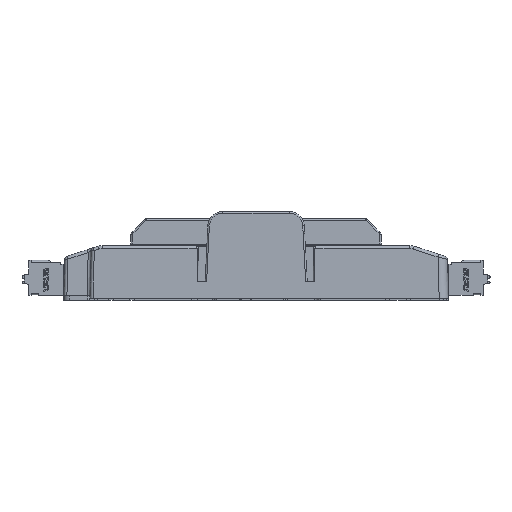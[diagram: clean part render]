
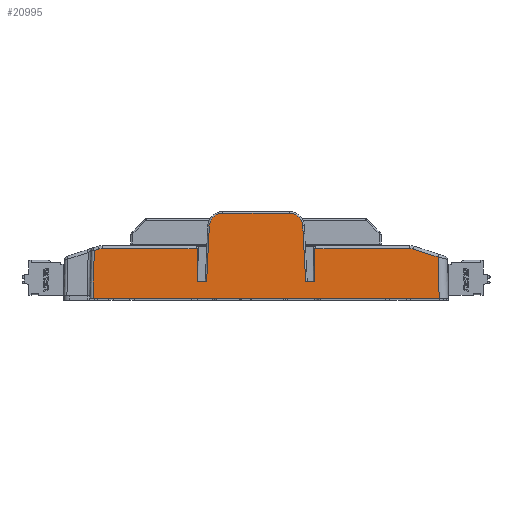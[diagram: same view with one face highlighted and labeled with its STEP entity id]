
A CAD part, front view. The second image highlights one B-rep face of the part: STEP entity #20995.
In plain terms, the highlighted planar face has unit normal (0, -1, 0.026).
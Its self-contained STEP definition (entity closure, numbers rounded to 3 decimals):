
#19801=ELLIPSE('',#84935,4.502,4.5);
#19802=ELLIPSE('',#84939,4.502,4.5);
#19807=ELLIPSE('',#84962,0.5,0.5);
#19811=ELLIPSE('',#84974,0.5,0.5);
#19821=ELLIPSE('',#85017,4.001,4.);
#19826=ELLIPSE('',#85035,4.001,4.);
#20995=ADVANCED_FACE('',(#26771),#24025,.F.);
#24025=PLANE('',#85066);
#26771=FACE_OUTER_BOUND('',#30038,.T.);
#30038=EDGE_LOOP('',(#37102,#37103,#37104,#37105,#37106,#37107,#37108,#37109,
#37110,#37111,#37112,#37113,#37114,#37115,#37116,#37117,#37118,#37119,#37120,
#37121));
#37102=ORIENTED_EDGE('',*,*,#59328,.F.);
#37103=ORIENTED_EDGE('',*,*,#58485,.F.);
#37104=ORIENTED_EDGE('',*,*,#59329,.T.);
#37105=ORIENTED_EDGE('',*,*,#59297,.T.);
#37106=ORIENTED_EDGE('',*,*,#59284,.T.);
#37107=ORIENTED_EDGE('',*,*,#59263,.T.);
#37108=ORIENTED_EDGE('',*,*,#59188,.T.);
#37109=ORIENTED_EDGE('',*,*,#59173,.T.);
#37110=ORIENTED_EDGE('',*,*,#59171,.F.);
#37111=ORIENTED_EDGE('',*,*,#59166,.T.);
#37112=ORIENTED_EDGE('',*,*,#59164,.T.);
#37113=ORIENTED_EDGE('',*,*,#59162,.T.);
#37114=ORIENTED_EDGE('',*,*,#59160,.T.);
#37115=ORIENTED_EDGE('',*,*,#59158,.T.);
#37116=ORIENTED_EDGE('',*,*,#59156,.F.);
#37117=ORIENTED_EDGE('',*,*,#59149,.F.);
#37118=ORIENTED_EDGE('',*,*,#59210,.T.);
#37119=ORIENTED_EDGE('',*,*,#59280,.T.);
#37120=ORIENTED_EDGE('',*,*,#59260,.T.);
#37121=ORIENTED_EDGE('',*,*,#59248,.T.);
#52050=VERTEX_POINT('',#108516);
#52051=VERTEX_POINT('',#108518);
#52516=VERTEX_POINT('',#110192);
#52517=VERTEX_POINT('',#110193);
#52521=VERTEX_POINT('',#110205);
#52522=VERTEX_POINT('',#110209);
#52523=VERTEX_POINT('',#110213);
#52524=VERTEX_POINT('',#110234);
#52525=VERTEX_POINT('',#110238);
#52526=VERTEX_POINT('',#110259);
#52529=VERTEX_POINT('',#110268);
#52530=VERTEX_POINT('',#110272);
#52535=VERTEX_POINT('',#110285);
#52539=VERTEX_POINT('',#110297);
#52554=VERTEX_POINT('',#110383);
#52573=VERTEX_POINT('',#110550);
#52578=VERTEX_POINT('',#110603);
#52580=VERTEX_POINT('',#110620);
#52588=VERTEX_POINT('',#110681);
#52595=VERTEX_POINT('',#110729);
#58485=EDGE_CURVE('',#52050,#52051,#67329,.T.);
#59149=EDGE_CURVE('',#52516,#52517,#67725,.T.);
#59156=EDGE_CURVE('',#52517,#52521,#67730,.T.);
#59158=EDGE_CURVE('',#52522,#52521,#67731,.T.);
#59160=EDGE_CURVE('',#52523,#52522,#19801,.T.);
#59162=EDGE_CURVE('',#52524,#52523,#67732,.T.);
#59164=EDGE_CURVE('',#52525,#52524,#19802,.T.);
#59166=EDGE_CURVE('',#52526,#52525,#67733,.T.);
#59171=EDGE_CURVE('',#52526,#52529,#67737,.T.);
#59173=EDGE_CURVE('',#52530,#52529,#67738,.T.);
#59188=EDGE_CURVE('',#52539,#52530,#19807,.T.);
#59210=EDGE_CURVE('',#52516,#52554,#19811,.T.);
#59248=EDGE_CURVE('',#52573,#52535,#67771,.T.);
#59260=EDGE_CURVE('',#52578,#52573,#19821,.T.);
#59263=EDGE_CURVE('',#52580,#52539,#67776,.T.);
#59280=EDGE_CURVE('',#52554,#52578,#67788,.T.);
#59284=EDGE_CURVE('',#52588,#52580,#19826,.T.);
#59297=EDGE_CURVE('',#52595,#52588,#67793,.T.);
#59328=EDGE_CURVE('',#52051,#52535,#67820,.T.);
#59329=EDGE_CURVE('',#52050,#52595,#67821,.T.);
#67329=LINE('',#108517,#74712);
#67725=LINE('',#110191,#75108);
#67730=LINE('',#110204,#75113);
#67731=LINE('',#110208,#75114);
#67732=LINE('',#110233,#75115);
#67733=LINE('',#110258,#75116);
#67737=LINE('',#110267,#75120);
#67738=LINE('',#110271,#75121);
#67771=LINE('',#110549,#75154);
#67776=LINE('',#110619,#75159);
#67788=LINE('',#110676,#75171);
#67793=LINE('',#110749,#75176);
#67820=LINE('',#110809,#75203);
#67821=LINE('',#110811,#75204);
#74712=VECTOR('',#91007,1.);
#75108=VECTOR('',#92341,1.);
#75113=VECTOR('',#92352,1.);
#75114=VECTOR('',#92357,1.);
#75115=VECTOR('',#92366,1.);
#75116=VECTOR('',#92375,1.);
#75120=VECTOR('',#92383,1.);
#75121=VECTOR('',#92388,1.);
#75154=VECTOR('',#92539,1.);
#75159=VECTOR('',#92576,1.);
#75171=VECTOR('',#92610,1.);
#75176=VECTOR('',#92651,1.);
#75203=VECTOR('',#92710,1.);
#75204=VECTOR('',#92713,1.);
#84935=AXIS2_PLACEMENT_3D('',#110212,#92362,#92363);
#84939=AXIS2_PLACEMENT_3D('',#110237,#92371,#92372);
#84962=AXIS2_PLACEMENT_3D('',#110330,#92424,#92425);
#84974=AXIS2_PLACEMENT_3D('',#110384,#92465,#92466);
#85017=AXIS2_PLACEMENT_3D('',#110602,#92570,#92571);
#85035=AXIS2_PLACEMENT_3D('',#110683,#92620,#92621);
#85066=AXIS2_PLACEMENT_3D('',#110812,#92714,#92715);
#91007=DIRECTION('',(-1.,0.,0.));
#92341=DIRECTION('',(0.009,-0.026,-1.));
#92352=DIRECTION('',(1.,0.,0.));
#92357=DIRECTION('',(-0.047,-0.026,-0.999));
#92362=DIRECTION('',(0.,-1.,0.026));
#92363=DIRECTION('',(0.,-0.026,-1.));
#92366=DIRECTION('',(-1.,0.,0.));
#92371=DIRECTION('',(0.,-1.,0.026));
#92372=DIRECTION('',(0.,0.026,1.));
#92375=DIRECTION('',(-0.052,0.026,0.998));
#92383=DIRECTION('',(1.,0.,0.));
#92388=DIRECTION('',(-0.009,-0.026,-1.));
#92424=DIRECTION('',(0.,-1.,0.026));
#92425=DIRECTION('',(0.,0.026,1.));
#92465=DIRECTION('',(0.,-1.,0.026));
#92466=DIRECTION('',(0.,-0.026,-1.));
#92539=DIRECTION('',(-0.951,-0.008,-0.309));
#92570=DIRECTION('',(0.,-1.,0.026));
#92571=DIRECTION('',(0.,-0.026,-1.));
#92576=DIRECTION('',(-1.,0.,0.));
#92610=DIRECTION('',(-1.,0.,0.));
#92620=DIRECTION('',(0.,-1.,0.026));
#92621=DIRECTION('',(0.,0.026,1.));
#92651=DIRECTION('',(-0.951,0.008,0.309));
#92710=DIRECTION('',(0.026,0.026,0.999));
#92713=DIRECTION('',(-0.026,0.026,0.999));
#92714=DIRECTION('',(0.,1.,-0.026));
#92715=DIRECTION('',(0.,0.026,1.));
#108516=CARTESIAN_POINT('',(-666.051,173.117,7.5));
#108517=CARTESIAN_POINT('',(-731.056,173.117,7.5));
#108518=CARTESIAN_POINT('',(-781.229,173.117,7.5));
#110191=CARTESIAN_POINT('',(-746.415,172.956,1.325));
#110192=CARTESIAN_POINT('',(-746.613,173.55,24.017));
#110193=CARTESIAN_POINT('',(-746.516,173.262,13.));
#110204=CARTESIAN_POINT('',(-669.,173.262,13.));
#110205=CARTESIAN_POINT('',(-743.42,173.262,13.));
#110208=CARTESIAN_POINT('',(-743.774,173.067,5.553));
#110209=CARTESIAN_POINT('',(-742.54,173.747,31.527));
#110212=CARTESIAN_POINT('',(-738.045,173.741,31.313));
#110213=CARTESIAN_POINT('',(-738.045,173.859,35.813));
#110233=CARTESIAN_POINT('',(-678.,173.859,35.813));
#110234=CARTESIAN_POINT('',(-715.941,173.859,35.813));
#110237=CARTESIAN_POINT('',(-715.941,173.741,31.313));
#110238=CARTESIAN_POINT('',(-711.447,173.747,31.549));
#110258=CARTESIAN_POINT('',(-709.786,172.918,-0.136));
#110259=CARTESIAN_POINT('',(-710.475,173.262,13.));
#110267=CARTESIAN_POINT('',(-669.,173.262,13.));
#110268=CARTESIAN_POINT('',(-707.484,173.262,13.));
#110271=CARTESIAN_POINT('',(-707.577,172.982,2.336));
#110272=CARTESIAN_POINT('',(-707.387,173.55,24.017));
#110285=CARTESIAN_POINT('',(-780.814,173.532,23.347));
#110297=CARTESIAN_POINT('',(-707.387,173.55,24.026));
#110330=CARTESIAN_POINT('',(-706.887,173.55,24.013));
#110383=CARTESIAN_POINT('',(-746.613,173.55,24.026));
#110384=CARTESIAN_POINT('',(-747.113,173.55,24.013));
#110549=CARTESIAN_POINT('',(-694.102,174.27,51.521));
#110550=CARTESIAN_POINT('',(-779.326,173.545,23.83));
#110602=CARTESIAN_POINT('',(-778.09,173.446,20.026));
#110603=CARTESIAN_POINT('',(-778.09,173.55,24.026));
#110619=CARTESIAN_POINT('',(-804.,173.55,24.026));
#110620=CARTESIAN_POINT('',(-675.91,173.55,24.026));
#110676=CARTESIAN_POINT('',(-804.,173.55,24.026));
#110681=CARTESIAN_POINT('',(-674.674,173.545,23.83));
#110683=CARTESIAN_POINT('',(-675.91,173.446,20.026));
#110729=CARTESIAN_POINT('',(-666.409,173.475,21.145));
#110749=CARTESIAN_POINT('',(-671.262,173.516,22.722));
#110809=CARTESIAN_POINT('',(-781.302,173.045,4.72));
#110811=CARTESIAN_POINT('',(-665.916,172.982,2.316));
#110812=CARTESIAN_POINT('',(-678.,172.973,2.));
